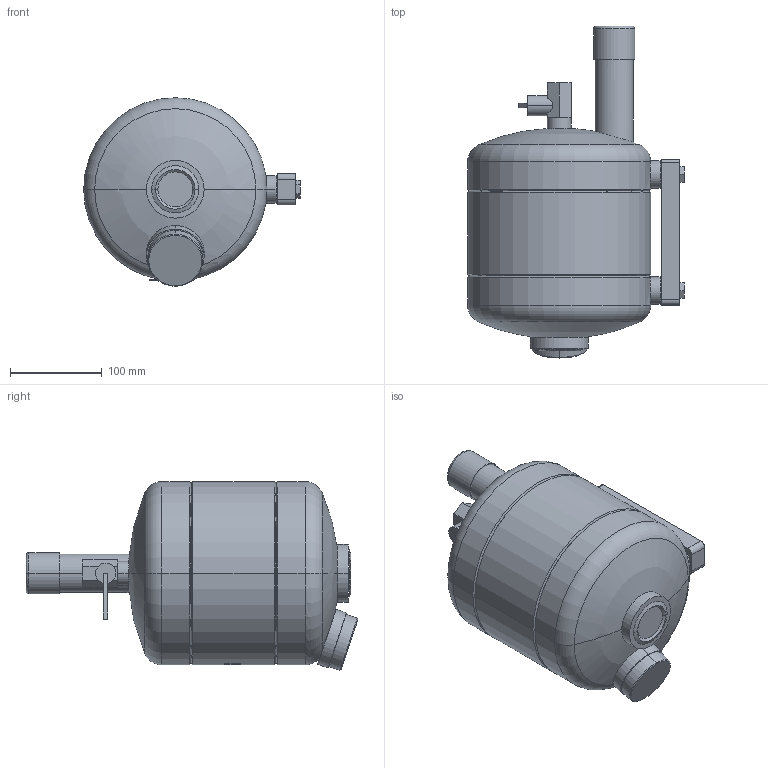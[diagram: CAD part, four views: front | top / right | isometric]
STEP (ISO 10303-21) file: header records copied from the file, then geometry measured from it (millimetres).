
FILE_DESCRIPTION((''),'2;1');
FILE_NAME('PRT0001','2015-05-25T',('L2200084'),('Copyright by Leybold GmbH'),'PRO/ENGINEER BY PARAMETRIC TECHNOLOGY CORPORATION, 2013320','PRO/ENGINEER BY PARAMETRIC TECHNOLOGY CORPORATION, 2013320','');
FILE_SCHEMA(('AUTOMOTIVE_DESIGN { 1 0 10303 214 1 1 1 1 }'));
Length unit declared in the file: millimetre
Products named in the file (1): PRT0001
Bounding box: 236.5 x 362.37 x 205.87 mm (x, y, z)
Surface area: 275433.7 mm2 (no closed solid volume)
Topology: 0 solids, 18 shells, 111 faces, 283 edges, 182 vertices
Faces by surface type: plane 47, cylinder 34, cone 18, torus 8, sphere 4
Entity records: 3571 total; most frequent: CARTESIAN_POINT 734, DIRECTION 597, ORIENTED_EDGE 498, EDGE_CURVE 283, AXIS2_PLACEMENT_3D 225, VERTEX_POINT 182, VECTOR 147, LINE 147
